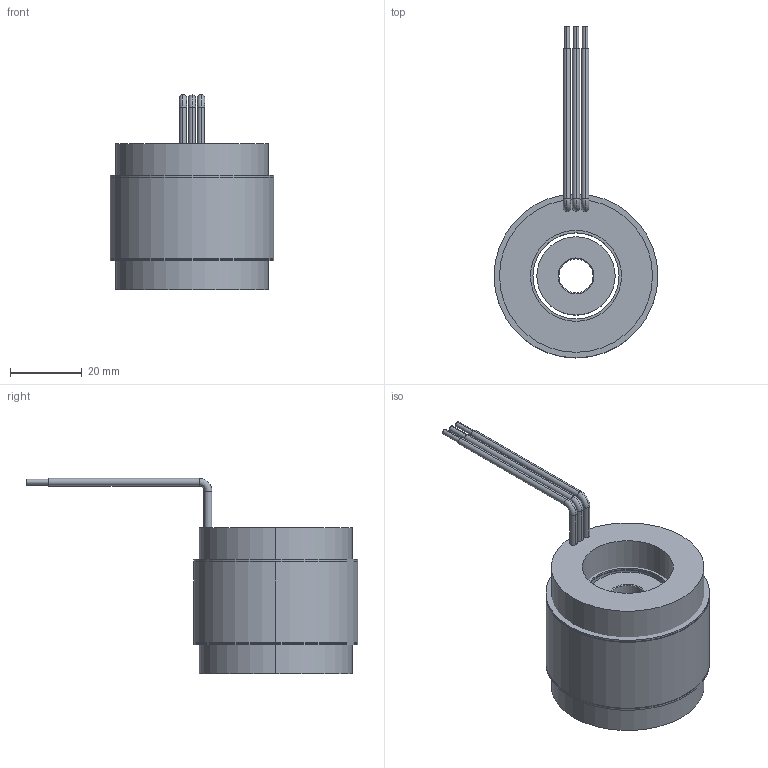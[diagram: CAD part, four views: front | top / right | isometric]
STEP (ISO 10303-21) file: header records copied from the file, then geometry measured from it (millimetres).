
FILE_DESCRIPTION (( 'STEP AP214' ), '1' );
FILE_NAME ('6100251-01.STEP', '2019-11-11T16:45:52', ( '' ), ( '' ), 'SwSTEP 2.0', 'SolidWorks 2016', '' );
FILE_SCHEMA (( 'AUTOMOTIVE_DESIGN' ));
Length unit declared in the file: millimetre
Products named in the file (9): 6100251-01; 4400029-00; 4250336-XX_4250336-01; 4500512-XX_4500512-01; COMP4500512-XX(COIL)_COMP4500512-01(COIL); 4600513-00; 4450149-XX_4450149-03; 4150140-XX_4150140-01
Assembly tree (10 placements, depth 4):
  6100251-01
    4500512-XX_4500512-01
      4450149-XX_4450149-03
        4450149-XX_4450149-03
        4400029-00  x2
        4600513-00  x2
      COMP4500512-XX(COIL)_COMP4500512-01(COIL)
    4250336-XX_4250336-01
      4150140-XX_4150140-01
Bounding box: 45.72 x 92.54 x 54.48 mm (x, y, z)
Volume: 73536.6 mm3; surface area: 31694.6 mm2
Topology: 7 solids, 7 shells, 76 faces, 152 edges, 96 vertices
Faces by surface type: cylinder 46, plane 20, torus 6, cone 4
Entity records: 2046 total; most frequent: DIRECTION 374, CARTESIAN_POINT 288, ORIENTED_EDGE 256, AXIS2_PLACEMENT_3D 166, EDGE_CURVE 128, CIRCLE 86, EDGE_LOOP 80, VERTEX_POINT 80
